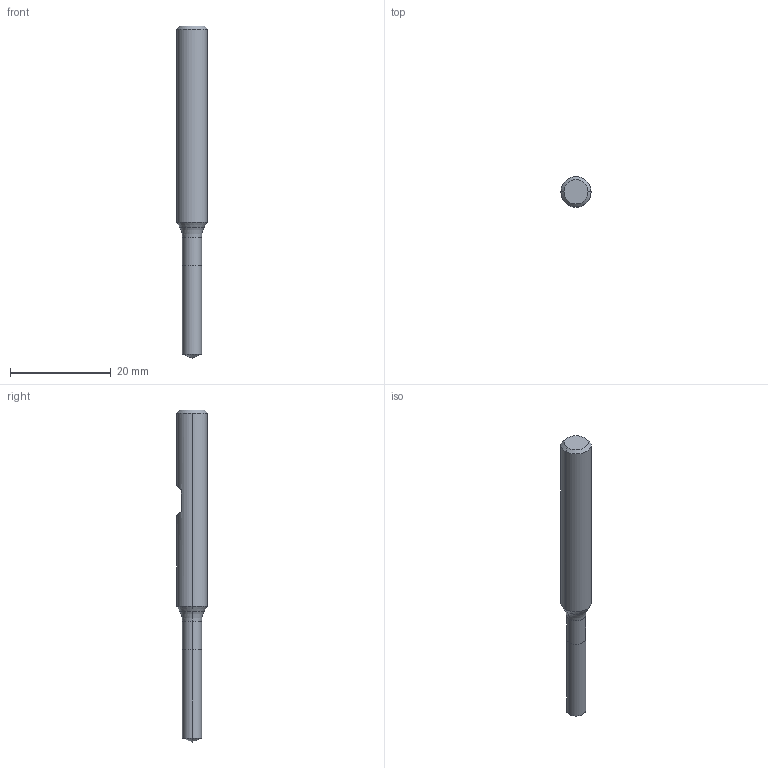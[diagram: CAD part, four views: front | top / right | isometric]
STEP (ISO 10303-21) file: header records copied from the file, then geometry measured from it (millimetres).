
FILE_DESCRIPTION (( 'STEP AP214' ), '1' );
FILE_NAME ('810.038.10_3D-model.step', '2022-02-23T22:35:02', ( '' ), ( '' ), 'SwSTEP 2.0', 'SolidWorks 2020', '' );
FILE_SCHEMA (( 'AUTOMOTIVE_DESIGN' ));
Length unit declared in the file: millimetre
Products named in the file (3): 810.038.10_3D-model; CUT-3D^Baugr145; NOCUT-3D^Baugr145
Assembly tree (2 placements, depth 2):
  810.038.10_3D-model
    CUT-3D^Baugr145
    NOCUT-3D^Baugr145
Bounding box: 6 x 6 x 66 mm (x, y, z)
Volume: 1403.2 mm3; surface area: 1115.3 mm2
Topology: 2 solids, 2 shells, 20 faces, 38 edges, 21 vertices
Faces by surface type: cone 6, cylinder 6, plane 6, torus 2
Entity records: 608 total; most frequent: DIRECTION 108, CARTESIAN_POINT 91, ORIENTED_EDGE 72, AXIS2_PLACEMENT_3D 46, EDGE_CURVE 36, EDGE_LOOP 21, VERTEX_POINT 21, ADVANCED_FACE 20
